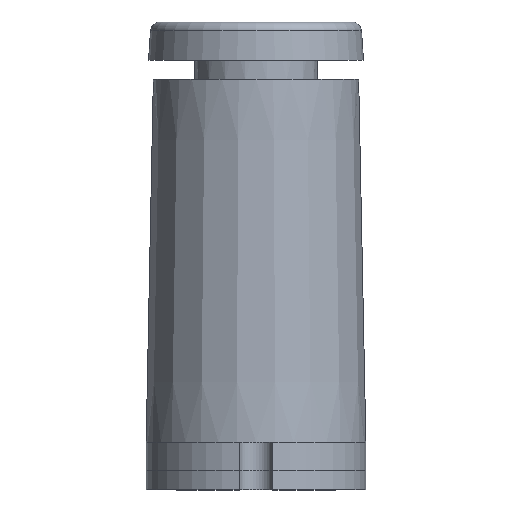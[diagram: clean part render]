
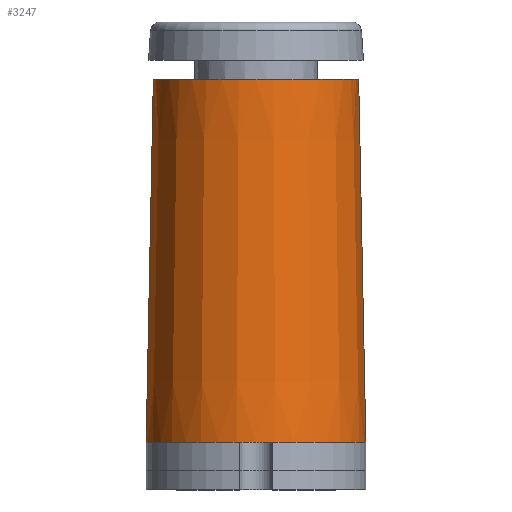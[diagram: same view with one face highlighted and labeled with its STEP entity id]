
A CAD part, left-side view. The second image highlights one B-rep face of the part: STEP entity #3247.
In plain terms, the highlighted conical face has half-angle 1.131 degrees and reference radius 36.513 mm.
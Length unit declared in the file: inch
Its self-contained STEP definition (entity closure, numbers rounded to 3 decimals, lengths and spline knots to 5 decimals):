
#115=CONICAL_SURFACE('',#3505,1.4375,1.131);
#339=LINE('',#6674,#540);
#340=LINE('',#6679,#541);
#540=VECTOR('',#4070,4.73852);
#541=VECTOR('',#4077,4.73852);
#746=FACE_OUTER_BOUND('',#951,.T.);
#951=EDGE_LOOP('',(#2395,#2396,#2397,#2398,#2399,#2400));
#1159=CIRCLE('',#3506,1.34375);
#1160=CIRCLE('',#3507,1.4375);
#1253=B_SPLINE_CURVE_WITH_KNOTS('',3,(#6515,#6516,#6517,#6518,#6519,#6520),
 .UNSPECIFIED.,.F.,.F.,(4,2,4),(2.88462,2.88534,3.07829),
 .UNSPECIFIED.);
#1260=B_SPLINE_CURVE_WITH_KNOTS('',3,(#6640,#6641,#6642,#6643,#6644,#6645),
 .UNSPECIFIED.,.F.,.F.,(4,2,4),(0.76213,0.95508,0.95581),
 .UNSPECIFIED.);
#1415=VERTEX_POINT('',#6512);
#1416=VERTEX_POINT('',#6514);
#1451=VERTEX_POINT('',#6637);
#1452=VERTEX_POINT('',#6639);
#1454=VERTEX_POINT('',#6672);
#1455=VERTEX_POINT('',#6677);
#1756=EDGE_CURVE('',#1416,#1415,#1253,.T.);
#1805=EDGE_CURVE('',#1452,#1451,#1260,.T.);
#1813=EDGE_CURVE('',#1454,#1415,#339,.T.);
#1814=EDGE_CURVE('',#1451,#1416,#1159,.T.);
#1815=EDGE_CURVE('',#1455,#1454,#1160,.T.);
#1816=EDGE_CURVE('',#1455,#1452,#340,.T.);
#2395=ORIENTED_EDGE('',*,*,#1805,.T.);
#2396=ORIENTED_EDGE('',*,*,#1814,.T.);
#2397=ORIENTED_EDGE('',*,*,#1756,.T.);
#2398=ORIENTED_EDGE('',*,*,#1813,.F.);
#2399=ORIENTED_EDGE('',*,*,#1815,.F.);
#2400=ORIENTED_EDGE('',*,*,#1816,.T.);
#3247=ADVANCED_FACE('',(#746),#115,.T.);
#3505=AXIS2_PLACEMENT_3D('',#6675,#4071,#4072);
#3506=AXIS2_PLACEMENT_3D('',#6676,#4073,#4074);
#3507=AXIS2_PLACEMENT_3D('',#6678,#4075,#4076);
#4070=DIRECTION('',(0.,-0.02,1.));
#4071=DIRECTION('center_axis',(0.,0.,
-1.));
#4072=DIRECTION('ref_axis',(0.,-1.,0.));
#4073=DIRECTION('center_axis',(0.,0.,
-1.));
#4074=DIRECTION('ref_axis',(0.,-1.,0.));
#4075=DIRECTION('center_axis',(0.,0.,
-1.));
#4076=DIRECTION('ref_axis',(0.,-1.,0.));
#4077=DIRECTION('',(0.,0.02,1.));
#6512=CARTESIAN_POINT('',(-1.5625,1.34399,5.3626));
#6514=CARTESIAN_POINT('',(-1.64025,1.3415,5.375));
#6515=CARTESIAN_POINT('Ctrl Pts',(-1.64025,1.3415,5.375));
#6516=CARTESIAN_POINT('Ctrl Pts',(-1.64016,1.3415,5.375));
#6517=CARTESIAN_POINT('Ctrl Pts',(-1.64007,1.34151,5.375));
#6518=CARTESIAN_POINT('Ctrl Pts',(-1.61469,1.34298,5.37497));
#6519=CARTESIAN_POINT('Ctrl Pts',(-1.588,1.34383,5.37095));
#6520=CARTESIAN_POINT('Ctrl Pts',(-1.5625,1.34399,5.3626));
#6637=CARTESIAN_POINT('',(-1.64025,-1.3415,5.375));
#6639=CARTESIAN_POINT('',(-1.5625,-1.34399,5.3626));
#6640=CARTESIAN_POINT('Ctrl Pts',(-1.5625,-1.34399,5.3626));
#6641=CARTESIAN_POINT('Ctrl Pts',(-1.588,-1.34383,5.37095));
#6642=CARTESIAN_POINT('Ctrl Pts',(-1.61469,-1.34298,5.37497));
#6643=CARTESIAN_POINT('Ctrl Pts',(-1.64007,-1.34151,5.375));
#6644=CARTESIAN_POINT('Ctrl Pts',(-1.64016,-1.3415,5.375));
#6645=CARTESIAN_POINT('Ctrl Pts',(-1.64025,-1.3415,5.375));
#6672=CARTESIAN_POINT('',(-1.5625,1.4375,0.625));
#6674=CARTESIAN_POINT('',(-1.5625,1.4375,0.625));
#6675=CARTESIAN_POINT('Origin',(-1.5625,0.,0.625));
#6676=CARTESIAN_POINT('Origin',(-1.5625,0.,5.375));
#6677=CARTESIAN_POINT('',(-1.5625,-1.4375,0.625));
#6678=CARTESIAN_POINT('Origin',(-1.5625,0.,0.625));
#6679=CARTESIAN_POINT('',(-1.5625,-1.4375,0.625));
